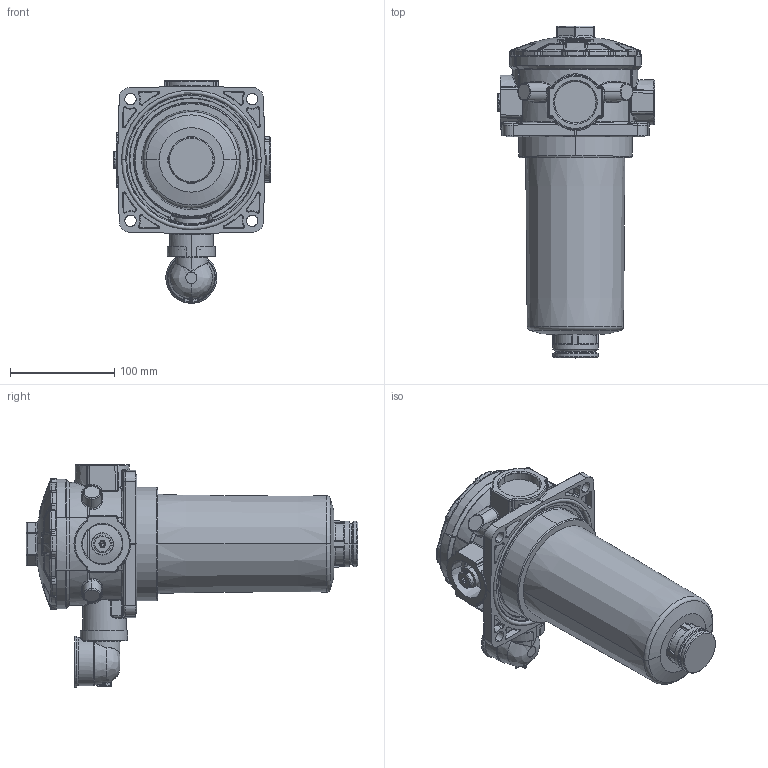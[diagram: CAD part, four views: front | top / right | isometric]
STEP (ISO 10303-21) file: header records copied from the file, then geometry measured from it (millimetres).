
FILE_DESCRIPTION((''),'2;1');
FILE_NAME('E_212-358_MIT_SECHSKANT_ANSCHLU','2024-09-04T15:05:40',('a.heinl'),(''),'CREO PARAMETRIC BY PTC INC, 2023254','CREO PARAMETRIC BY PTC INC, 2023254','');
FILE_SCHEMA(('AUTOMOTIVE_DESIGN { 1 0 10303 214 1 1 1 1 }'));
Length unit declared in the file: millimetre
Products named in the file (1): E_212-358_MIT_SECHSKANT_ANSCHLU
Bounding box: 150.75 x 318.3 x 213.5 mm (x, y, z)
Volume: 2629196.2 mm3; surface area: 174678.5 mm2
Topology: 1 solids, 4 shells, 1787 faces, 4537 edges, 2768 vertices
Faces by surface type: bspline 531, plane 461, cylinder 364, torus 189, cone 147, sphere 80, extrusion 15
Entity records: 110553 total; most frequent: CARTESIAN_POINT 45721, ORIENTED_EDGE 8982, DIRECTION 7011, PRESENTATION_STYLE_ASSIGNMENT 6293, STYLED_ITEM 4507, CURVE_STYLE 4506, EDGE_CURVE 4491, AXIS2_PLACEMENT_3D 2982
